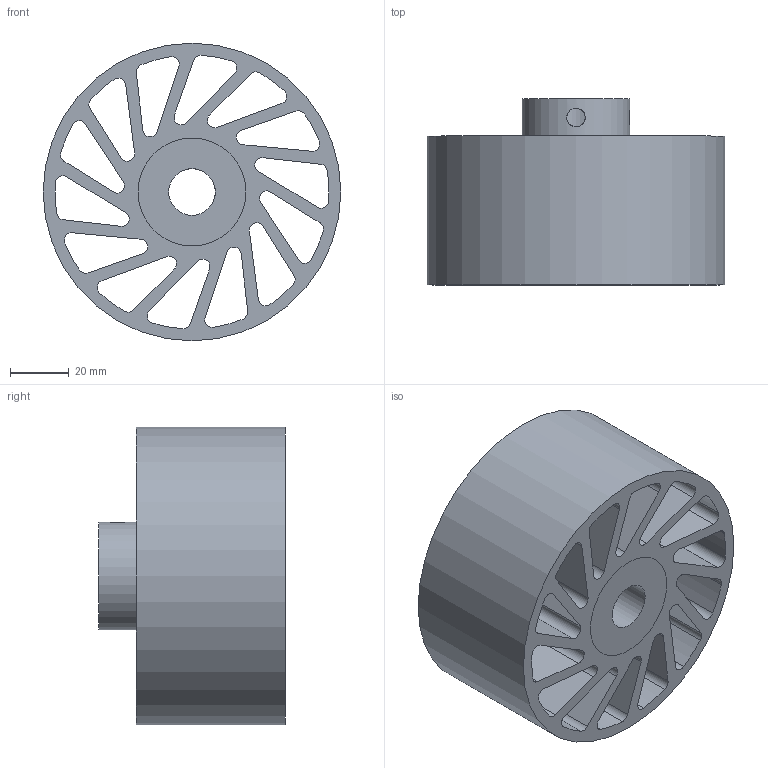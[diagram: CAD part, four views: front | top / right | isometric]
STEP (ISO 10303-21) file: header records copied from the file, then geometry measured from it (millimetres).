
FILE_DESCRIPTION(/* description */ (''),/* implementation_level */ '2;1');
FILE_NAME(/* name */ 'NCW-410-XXX-YYY.stp',/* time_stamp */ '2023-02-02T15:08:19-06:00',/* author */ ('AG'),/* organization */ ('Meridian Laboratory'),/* preprocessor_version */ 'ST-DEVELOPER v18.1',/* originating_system */ 'Autodesk Inventor 2022',/* authorisation */ '');
FILE_SCHEMA (('AUTOMOTIVE_DESIGN { 1 0 10303 214 3 1 1 }'));
Length unit declared in the file: inch
Products named in the file (1): NCW-340
Bounding box: 101.6 x 63.5 x 101.6 mm (x, y, z)
Volume: 231186.3 mm3; surface area: 90805.3 mm2
Topology: 2 solids, 2 shells, 94 faces, 276 edges, 186 vertices
Faces by surface type: cylinder 62, plane 32
Full cylindrical faces by diameter (mm): 6.35 x2, 15.9 x1, 36.83 x2, 101.6 x1
Entity records: 3530 total; most frequent: CARTESIAN_POINT 697, DIRECTION 576, ORIENTED_EDGE 552, EDGE_CURVE 276, AXIS2_PLACEMENT_3D 215, VERTEX_POINT 186, LINE 146, VECTOR 146
